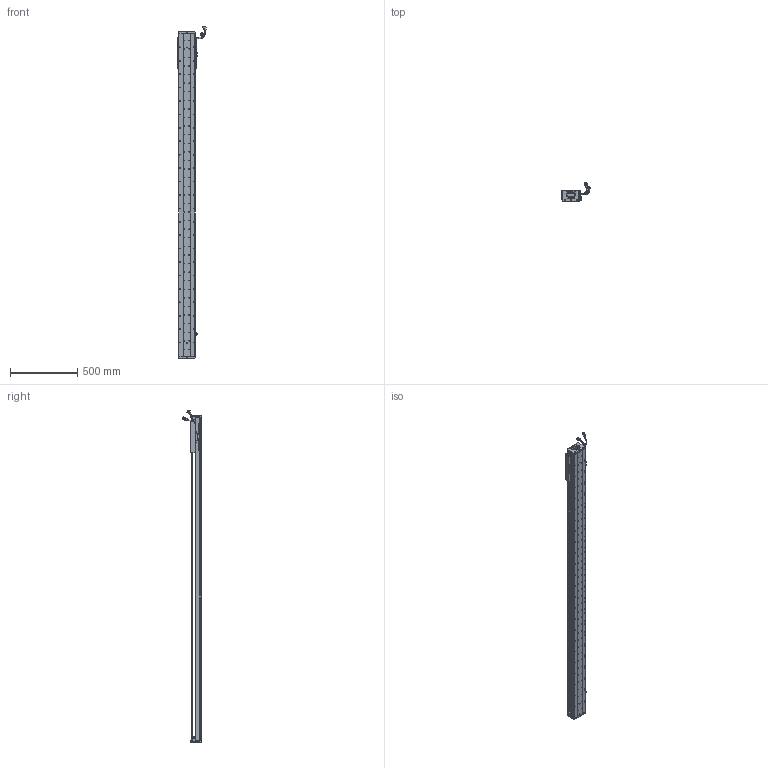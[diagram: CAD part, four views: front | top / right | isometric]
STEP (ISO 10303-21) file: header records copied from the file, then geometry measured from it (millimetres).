
FILE_DESCRIPTION (( 'STEP AP203' ), '1' );
FILE_NAME ('Z3-RY120D-1-L500-B-K.SLDASM_2100.step', '2021-05-17T05:49:17', ( '盈信电脑' ), ( '东莞市道滘镇水果街19号' ), 'SwSTEP 2.0', 'SolidWorks 2016', '' );
FILE_SCHEMA (( 'CONFIG_CONTROL_DESIGN' ));
Length unit declared in the file: millimetre
Products named in the file (37): Z-RY120D詩湍奻揤裔; SCREW-M1.7; Z3-RY120-L500詩湍100mm遵_2100; PBU_SHEET; 覜茼ん672; COVER-Part-1; 672嫖萇羲壽假蚾釱; COVER; SCALE; HARNESS-Part-2; HOLDER0; 120-Z-臏賑輸盄裔(21遴); Z-120詩湍傷裔啣; SCREW-M1.6; 140雄赽晤鎢ん堤盄; RY100FB-遵嫖萇覜茼え; SCREW-M1.6-2; 080黍杅芛假蚾釱21遴; 榋妏寠巭燃_暯_M2_2; PSLH080_PSLF2; Z-RY120D詩湍狟揤裔; HARNESS-Part-1; SCALE-Part-2; SCREW-M1.6-1; LABEL-Part-1; SHIELDPLATE; Z3-RY120铝滑块（21款）; SCREW-M1.7-1; SCALE-Part-1; HARNESS; SEAL-Part-1; SCREW-M1.6-3; Z3-RY120-500-倰第菁釱_2100; 140蚥薯蝶輸; LABEL; Z3-RY120D-1-L500-B-K.SLDASM_2100; SEAL
Assembly tree (43 placements, depth 4):
  Z3-RY120D-1-L500-B-K.SLDASM_2100
    Z3-RY120-500-倰第菁釱_2100
    覜茼ん672  x3
    672嫖萇羲壽假蚾釱  x2
    Z3-RY120铝滑块（21款）
    PSLH080_PSLF2
      SCALE
        SCALE-Part-1
        SCALE-Part-2
      HARNESS
        HARNESS-Part-1
        HARNESS-Part-2
      LABEL
        LABEL-Part-1
      COVER
        COVER-Part-1
      SEAL
        SEAL-Part-1
      榋妏寠巭燃_暯_M2_2
      SHIELDPLATE
      SCREW-M1.7
      SCREW-M1.7-1
      PBU_SHEET
      SCREW-M1.6
      SCREW-M1.6-1
      SCREW-M1.6-2
      SCREW-M1.6-3
      HOLDER0
    080黍杅芛假蚾釱21遴
    120-Z-臏賑輸盄裔(21遴)
    140雄赽晤鎢ん堤盄
    140蚥薯蝶輸  x2
    RY100FB-遵嫖萇覜茼え
    Z-120詩湍傷裔啣  x2
    Z-RY120D詩湍奻揤裔  x2
    Z-RY120D詩湍狟揤裔  x2
    Z3-RY120-L500詩湍100mm遵_2100
Bounding box: 222.88 x 140.94 x 2473.99 mm (x, y, z)
Volume: 5885116.7 mm3; surface area: 2047110.7 mm2
Topology: 38 solids, 38 shells, 3541 faces, 10009 edges, 6312 vertices
Faces by surface type: cylinder 1825, plane 1224, cone 370, torus 69, bspline 53
Entity records: 117006 total; most frequent: CARTESIAN_POINT 35151, ORIENTED_EDGE 16802, DIRECTION 15579, EDGE_CURVE 8401, AXIS2_PLACEMENT_3D 5758, VERTEX_POINT 5432, VECTOR 4063, LINE 4063
